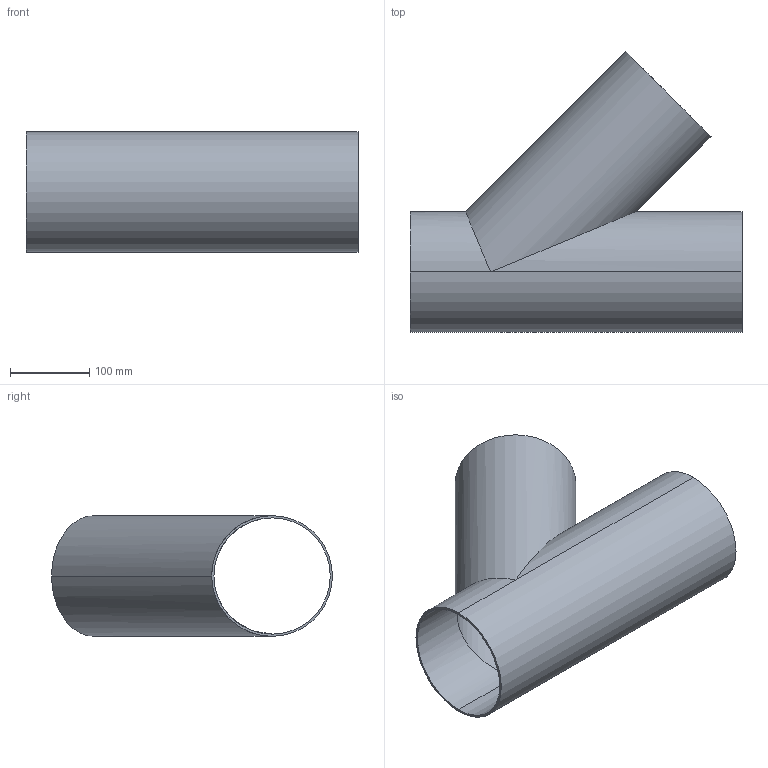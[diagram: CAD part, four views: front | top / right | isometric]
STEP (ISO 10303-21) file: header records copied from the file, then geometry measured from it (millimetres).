
FILE_DESCRIPTION (( 'STEP AP214' ), '1' );
FILE_NAME ('TE28WA6L6.0-...STEP', '2016-05-24T12:46:07', ( 'eran' ), ( '' ), 'SwSTEP 2.0', 'SolidWorks 2016', '' );
FILE_SCHEMA (( 'AUTOMOTIVE_DESIGN' ));
Length unit declared in the file: millimetre
Products named in the file (1): TE28WA6L6.0-..
Bounding box: 419.1 x 354.59 x 152.4 mm (x, y, z)
Volume: 783702.5 mm3; surface area: 569727.6 mm2
Topology: 1 solids, 1 shells, 13 faces, 32 edges, 20 vertices
Faces by surface type: cylinder 10, plane 3
Entity records: 428 total; most frequent: CARTESIAN_POINT 90, DIRECTION 64, ORIENTED_EDGE 64, EDGE_CURVE 32, AXIS2_PLACEMENT_3D 26, VERTEX_POINT 20, EDGE_LOOP 16, ADVANCED_FACE 13
